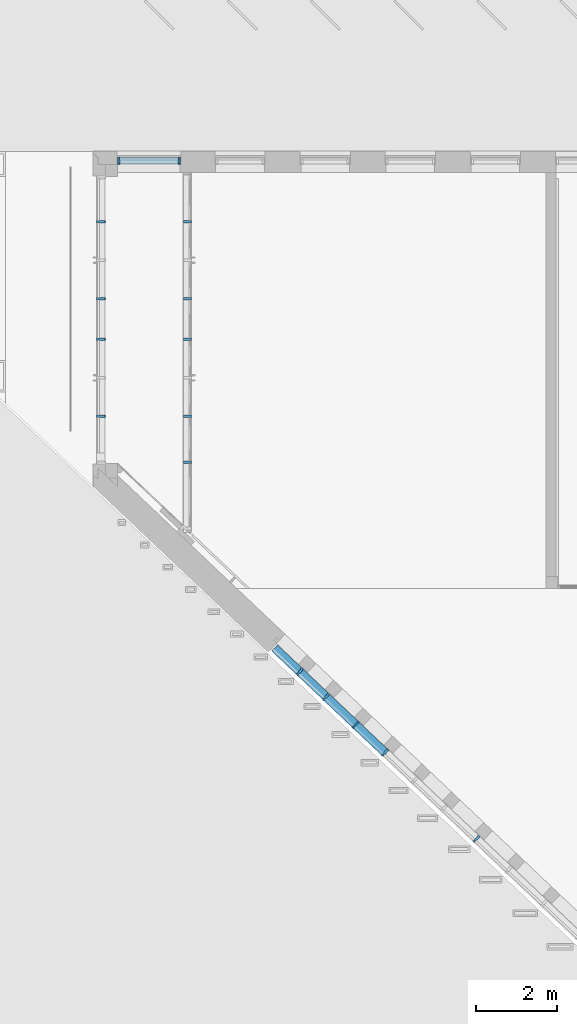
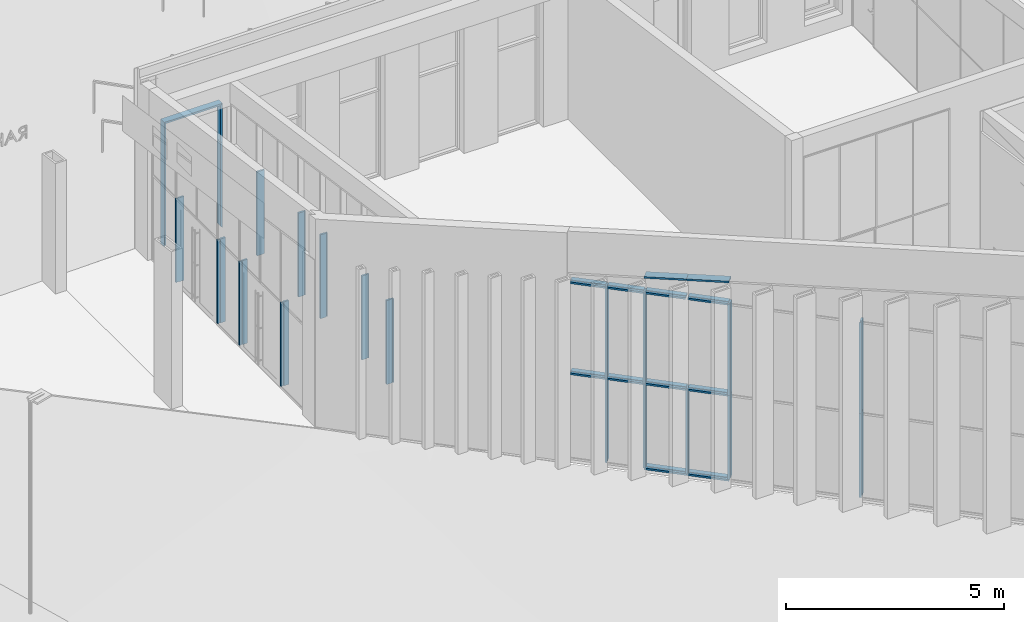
# One storey, part 12 of 246: 35 members, 4 elements without a shape of their own.
"""IFC2X3 building model written with IfcOpenShell, lengths in millimetres."""

from ifc_helpers import new_model, entity, si_unit, converted_unit, derived_unit, money_unit, direction, frame, origin_with_axes, place, context, subcontext, project, spatial, faceted_brep, source, transform, mapped, material, type_object, element, aggregate, save


model = new_model("IFC2X3")

# Units and contexts
model_context = context("Model", 3, precision=0.01, world=origin_with_axes(), true_north=direction((0.0, 1.0)))
body_context = subcontext(model_context, "Body", "Model", "MODEL_VIEW")
ifc_project = project(units=[si_unit("LENGTHUNIT", "METRE", prefix="MILLI"), si_unit("AREAUNIT", "SQUARE_METRE"), si_unit("VOLUMEUNIT", "CUBIC_METRE"), converted_unit("PLANEANGLEUNIT", "DEGREE", entity("IfcPlaneAngleMeasure", 0.0174532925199), si_unit("PLANEANGLEUNIT", "RADIAN"), dimensions=[0, 0, 0, 0, 0, 0, 0]), si_unit("SOLIDANGLEUNIT", "STERADIAN"), money_unit("EUR"), converted_unit("TIMEUNIT", "Year", entity("IfcTimeMeasure", 31556926.0), si_unit("TIMEUNIT", "SECOND"), dimensions=[0, 0, 1, 0, 0, 0, 0]), si_unit("MASSUNIT", "GRAM", prefix="KILO"), si_unit("THERMODYNAMICTEMPERATUREUNIT", "DEGREE_CELSIUS"), si_unit("LUMINOUSINTENSITYUNIT", "LUMEN"), si_unit("ENERGYUNIT", "JOULE", prefix="MEGA"), derived_unit("THERMALCONDUCTANCEUNIT", [(si_unit("POWERUNIT", "WATT"), 1), (si_unit("LENGTHUNIT", "METRE"), -1), (si_unit("THERMODYNAMICTEMPERATUREUNIT", "KELVIN"), -1)]), derived_unit("SPECIFICHEATCAPACITYUNIT", [(si_unit("ENERGYUNIT", "JOULE"), 1), (si_unit("MASSUNIT", "GRAM", prefix="KILO"), -1), (si_unit("THERMODYNAMICTEMPERATUREUNIT", "KELVIN"), -1)]), derived_unit("MASSDENSITYUNIT", [(si_unit("MASSUNIT", "GRAM", prefix="KILO"), 1), (si_unit("VOLUMEUNIT", "CUBIC_METRE"), -1)])], contexts=[model_context])

# Site, building, storey
site_placement = place(None, origin_with_axes())
site = spatial("IfcSite", under=ifc_project, at=site_placement, Name="L.Koidula tn 11b", CompositionType="ELEMENT")
building_placement = place(site_placement, origin_with_axes())
building = spatial("IfcBuilding", under=site, at=building_placement, Name="Rakvere Riigigümnaasium", CompositionType="ELEMENT")
storey_placement = place(building_placement, origin_with_axes())
storey = spatial("IfcBuildingStorey", under=building, at=storey_placement, Name="1.korrus 0,00", CompositionType="ELEMENT", Elevation=0.0)

# Curtain wall, member
curtain_wall_type = type_object("IfcCurtainWallType", Name="Curtain Wall Type", PredefinedType="NOTDEFINED")
curtain_wall_1_placement = place(storey_placement, frame((15499.784937, 71934.4519938, -4.35310838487e-05), z_axis=(0.0, 0.0, 1.0), x_axis=(1.0, 0.0, 0.0)))
curtain_wall_1 = element("IfcCurtainWall", 1, at=curtain_wall_1_placement, inside=storey, type_object=curtain_wall_type, Name="KLF-08-01")
ifc_material = material(Name="Alumiiniumprofiil (RAL 7021)")
member_type_1 = type_object("IfcMemberType", Name="Boundary Frame 50 x 170", PredefinedType="MULLION")
shared_shape_1 = source(origin_with_axes(), body_context, "Body", "Brep", [
    faceted_brep([(-37.0, -26.0, 2400.00000019), (-50.0, -26.0, 2400.00000019), (-50.0, -124.0, 2400.00000019), (0.0, -124.0, 2400.00000019), (0.0, 46.0, 2400.00000019), (-50.0, 46.0, 2400.00000019), (-50.0, 26.0, 2400.00000019), (-37.0, 26.0, 2400.00000019), (-37.0, -26.0, 37.0), (-50.0, -26.0, 50.0), (-50.0, -124.0, 50.0), (0.0, -124.0, 0.0), (0.0, 46.0, 0.0), (-50.0, 46.0, 50.0), (-50.0, 26.0, 50.0), (-37.0, 26.0, 37.0)], [[[0, 1, 2, 3, 4, 5, 6, 7]], [[0, 8, 9, 1]], [[9, 10, 2, 1]], [[2, 10, 11, 3]], [[3, 11, 12, 4]], [[4, 12, 13, 5]], [[6, 5, 13, 14]], [[14, 15, 7, 6]], [[7, 15, 8, 0]], [[8, 15, 14, 13, 12, 11, 10, 9]]]),
])
member_1_placement = place(curtain_wall_1_placement, frame((769.750532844, 0.0, 0.0), z_axis=(-5.67452741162e-10, 0.0, 1.0), x_axis=(-1.0, 0.0, -5.67452741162e-10)))
member_1 = element("IfcMember", 2, at=member_1_placement, type_object=member_type_1, material=ifc_material, Name="KLF-08-41-Profiilid", ObjectType="MULLION", context=body_context, shape_type="MappedRepresentation", body=[
    mapped(shared_shape_1, transform((0.0, 0.0, 0.0), x_axis=(-1.0, 0.0, -5.67452741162e-10), y_axis=(0.0, -1.0, 0.0), z_axis=(-5.67452741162e-10, 0.0, 1.0))),
])

# Curtain wall, members
curtain_wall_2_placement = place(storey_placement, frame((33997.0353268, 45217.6604975, 0.0), z_axis=(0.0, 0.0, 1.0), x_axis=(1.0, 0.0, 0.0)))
curtain_wall_2 = element("IfcCurtainWall", 3, at=curtain_wall_2_placement, inside=storey, type_object=curtain_wall_type, Name="KLF-02")
member_type_2 = type_object("IfcMemberType", Name="Mullion Frame 50 x 210", PredefinedType="MULLION")
shared_shape_2 = source(origin_with_axes(), body_context, "Body", "Brep", [
    faceted_brep([(12.0, -26.0, 2550.0), (12.0, 26.0, 2550.0), (25.0, 26.0, 2550.0), (25.0, 56.0, 2550.0), (-25.0, 56.0, 2550.0), (-25.0, 26.0, 2550.0), (-12.0, 26.0, 2550.0), (-12.0, -26.0, 2550.0), (-25.0, -26.0, 2550.0), (-25.0, -154.0, 2550.0), (25.0, -154.0, 2550.0), (25.0, -26.0, 2550.0), (12.0, -26.0, 0.0), (12.0, 26.0, 0.0), (25.0, 26.0, 0.0), (25.0, 56.0, 0.0), (-25.0, 56.0, 0.0), (-25.0, 26.0, 0.0), (-12.0, 26.0, 0.0), (-12.0, -26.0, 0.0), (-25.0, -26.0, 0.0), (-25.0, -154.0, 0.0), (25.0, -154.0, 0.0), (25.0, -26.0, 0.0)], [[[0, 1, 2, 3, 4, 5, 6, 7, 8, 9, 10, 11]], [[0, 12, 13, 1]], [[1, 13, 14, 2]], [[14, 15, 3, 2]], [[3, 15, 16, 4]], [[17, 5, 4, 16]], [[5, 17, 18, 6]], [[7, 6, 18, 19]], [[8, 7, 19, 20]], [[8, 20, 21, 9]], [[9, 21, 22, 10]], [[11, 10, 22, 23]], [[11, 23, 12, 0]], [[13, 12, 23, 22, 21, 20, 19, 18, 17, 16, 15, 14]]]),
])
member_2_placement = place(curtain_wall_2_placement, frame((-14809.5886752, 14029.8283407, 2400.00031279), z_axis=(0.0, 0.0, 1.0), x_axis=(0.725960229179, -0.687736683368, 0.0)))
member_2 = element("IfcMember", 4, at=member_2_placement, type_object=member_type_2, material=ifc_material, Name="KLF-52-Profiilid", ObjectType="MULLION", context=body_context, shape_type="MappedRepresentation", body=[
    mapped(shared_shape_2, transform((0.0, 0.0, 0.0), x_axis=(-1.0, 0.0, 0.0), y_axis=(0.0, -1.0, 0.0), z_axis=(0.0, 0.0, 1.0))),
])
member_3_placement = place(curtain_wall_2_placement, frame((-14156.224469, 13410.8653257, 2400.00031279), z_axis=(0.0, 0.0, 1.0), x_axis=(0.725960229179, -0.687736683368, 0.0)))
member_3 = element("IfcMember", 5, at=member_3_placement, type_object=member_type_2, material=ifc_material, Name="KLF-49-Profiilid", ObjectType="MULLION", context=body_context, shape_type="MappedRepresentation", body=[
    mapped(shared_shape_2, transform((0.0, 0.0, 0.0), x_axis=(-1.0, 0.0, 0.0), y_axis=(0.0, -1.0, 0.0), z_axis=(0.0, 0.0, 1.0))),
])
member_4_placement = place(curtain_wall_2_placement, frame((-12704.3040106, 12035.3919589, 2400.00031279), z_axis=(0.0, 0.0, 1.0), x_axis=(0.725960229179, -0.687736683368, 0.0)))
member_4 = element("IfcMember", 6, at=member_4_placement, type_object=member_type_2, material=ifc_material, Name="KLF-43-Profiilid", ObjectType="MULLION", context=body_context, shape_type="MappedRepresentation", body=[
    mapped(shared_shape_2, transform((0.0, 0.0, 0.0), x_axis=(-1.0, 0.0, 0.0), y_axis=(0.0, -1.0, 0.0), z_axis=(0.0, 0.0, 1.0))),
])
member_5_placement = place(curtain_wall_2_placement, frame((-10453.8273002, 9903.40824051, 2400.00031279), z_axis=(0.0, 0.0, 1.0), x_axis=(0.725960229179, -0.687736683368, 0.0)))
member_5 = element("IfcMember", 7, at=member_5_placement, type_object=member_type_2, material=ifc_material, Name="KLF-34-Profiilid", ObjectType="MULLION", context=body_context, shape_type="MappedRepresentation", body=[
    mapped(shared_shape_2, transform((0.0, 0.0, 0.0), x_axis=(-1.0, 0.0, 0.0), y_axis=(0.0, -1.0, 0.0), z_axis=(0.0, 0.0, 1.0))),
])
shared_shape_3 = source(origin_with_axes(), body_context, "Body", "Brep", [
    faceted_brep([(12.0, -26.0, 2400.00031279), (12.0, 26.0, 2400.00031279), (25.0, 26.0, 2400.00031279), (25.0, 56.0, 2400.00031279), (-25.0, 56.0, 2400.00031279), (-25.0, 26.0, 2400.00031279), (-12.0, 26.0, 2400.00031279), (-12.0, -26.0, 2400.00031279), (-25.0, -26.0, 2400.00031279), (-25.0, -154.0, 2400.00031279), (25.0, -154.0, 2400.00031279), (25.0, -26.0, 2400.00031279), (12.0, -26.0, 50.0), (12.0, 26.0, 50.0), (25.0, 26.0, 50.0), (25.0, 56.0, 50.0), (-25.0, 56.0, 50.0), (-25.0, 26.0, 50.0), (-12.0, 26.0, 50.0), (-12.0, -26.0, 50.0), (-25.0, -26.0, 50.0), (-25.0, -154.0, 50.0), (25.0, -154.0, 50.0), (25.0, -26.0, 50.0)], [[[0, 1, 2, 3, 4, 5, 6, 7, 8, 9, 10, 11]], [[0, 12, 13, 1]], [[1, 13, 14, 2]], [[14, 15, 3, 2]], [[4, 3, 15, 16]], [[17, 5, 4, 16]], [[5, 17, 18, 6]], [[7, 6, 18, 19]], [[8, 7, 19, 20]], [[8, 20, 21, 9]], [[10, 9, 21, 22]], [[11, 10, 22, 23]], [[11, 23, 12, 0]], [[13, 12, 23, 22, 21, 20, 19, 18, 17, 16, 15, 14]]]),
])
member_6_placement = place(curtain_wall_2_placement, frame((-12704.3040106, 12035.3919589, 0.0), z_axis=(0.0, 0.0, 1.0), x_axis=(0.725960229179, -0.687736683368, 0.0)))
member_6 = element("IfcMember", 8, at=member_6_placement, type_object=member_type_2, material=ifc_material, Name="KLF-42-Profiilid", ObjectType="MULLION", context=body_context, shape_type="MappedRepresentation", body=[
    mapped(shared_shape_3, transform((0.0, 0.0, 0.0), x_axis=(-1.0, 0.0, 0.0), y_axis=(0.0, -1.0, 0.0), z_axis=(0.0, 0.0, 1.0))),
])
member_7_placement = place(curtain_wall_2_placement, frame((-14809.5886752, 14029.8283407, 0.0), z_axis=(0.0, 0.0, 1.0), x_axis=(0.725960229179, -0.687736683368, 0.0)))
member_7 = element("IfcMember", 9, at=member_7_placement, type_object=member_type_2, material=ifc_material, Name="KLF-51-Profiilid", ObjectType="MULLION", context=body_context, shape_type="MappedRepresentation", body=[
    mapped(shared_shape_3, transform((0.0, 0.0, 0.0), x_axis=(-1.0, 0.0, 0.0), y_axis=(0.0, -1.0, 0.0), z_axis=(0.0, 0.0, 1.0))),
])
member_8_placement = place(curtain_wall_2_placement, frame((-14156.224469, 13410.8653257, 0.0), z_axis=(0.0, 0.0, 1.0), x_axis=(0.725960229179, -0.687736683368, 0.0)))
member_8 = element("IfcMember", 10, at=member_8_placement, type_object=member_type_2, material=ifc_material, Name="KLF-48-Profiilid", ObjectType="MULLION", context=body_context, shape_type="MappedRepresentation", body=[
    mapped(shared_shape_3, transform((0.0, 0.0, 0.0), x_axis=(-1.0, 0.0, 0.0), y_axis=(0.0, -1.0, 0.0), z_axis=(0.0, 0.0, 1.0))),
])
member_9_placement = place(curtain_wall_2_placement, frame((-13430.2642398, 12723.1286423, 0.0), z_axis=(0.0, 0.0, 1.0), x_axis=(0.725960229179, -0.687736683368, 0.0)))
member_9 = element("IfcMember", 11, at=member_9_placement, type_object=member_type_2, material=ifc_material, Name="KLF-45-Profiilid", ObjectType="MULLION", context=body_context, shape_type="MappedRepresentation", body=[
    mapped(shared_shape_3, transform((0.0, 0.0, 0.0), x_axis=(-1.0, 0.0, 0.0), y_axis=(0.0, -1.0, 0.0), z_axis=(0.0, 0.0, 1.0))),
])
member_10_placement = place(curtain_wall_2_placement, frame((-10453.8273002, 9903.40824051, 0.0), z_axis=(0.0, 0.0, 1.0), x_axis=(0.725960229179, -0.687736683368, 0.0)))
member_10 = element("IfcMember", 12, at=member_10_placement, type_object=member_type_2, material=ifc_material, Name="KLF-33-Profiilid", ObjectType="MULLION", context=body_context, shape_type="MappedRepresentation", body=[
    mapped(shared_shape_3, transform((0.0, 0.0, 0.0), x_axis=(-1.0, 0.0, 0.0), y_axis=(0.0, -1.0, 0.0), z_axis=(0.0, 0.0, 1.0))),
])

# Member
shared_shape_4 = source(origin_with_axes(), body_context, "Body", "Brep", [
    faceted_brep([(37.0, -26.0, 2400.0), (37.0, 26.0, 2400.0), (50.0, 26.0, 2400.0), (50.0, 46.0, 2400.0), (0.0, 46.0, 2400.0), (0.0, -124.0, 2400.0), (50.0, -124.0, 2400.0), (50.0, -26.0, 2400.0), (37.0, -26.0, 37.0), (37.0, 26.0, 37.0), (50.0, 26.0, 50.0), (50.0, 46.0, 50.0), (0.0, 46.0, 0.0), (0.0, -124.0, 0.0), (50.0, -124.0, 50.0), (50.0, -26.0, 50.0)], [[[0, 1, 2, 3, 4, 5, 6, 7]], [[1, 0, 8, 9]], [[10, 2, 1, 9]], [[2, 10, 11, 3]], [[4, 3, 11, 12]], [[5, 4, 12, 13]], [[6, 5, 13, 14]], [[15, 7, 6, 14]], [[0, 7, 15, 8]], [[8, 15, 14, 13, 12, 11, 10, 9]]]),
])
member_11_placement = place(curtain_wall_1_placement, frame((-769.750531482, 0.0, 0.0), z_axis=(0.0, 0.0, 1.0), x_axis=(-1.0, 0.0, 0.0)))
member_11 = element("IfcMember", 13, at=member_11_placement, type_object=member_type_1, material=ifc_material, Name="KLF-08-45-Profiilid", ObjectType="MULLION", context=body_context, shape_type="MappedRepresentation", body=[
    mapped(shared_shape_4, transform((0.0, 0.0, 0.0), x_axis=(-1.0, 0.0, 0.0), y_axis=(0.0, -1.0, 0.0), z_axis=(0.0, 0.0, 1.0))),
])

shared_shape_5 = source(origin_with_axes(), body_context, "Body", "Brep", [
    faceted_brep([(-37.0, -26.0, 1042.99989822), (-50.0, -26.0, 1029.99989822), (-50.0, -124.0, 1029.99989822), (0.0, -124.0, 1079.99989822), (0.0, 46.0, 1079.99989822), (-50.0, 46.0, 1029.99989822), (-50.0, 26.0, 1029.99989822), (-37.0, 26.0, 1042.99989822), (-37.0, -26.0, -2.46072051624e-08), (-50.0, -26.0, -2.46072051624e-08), (-50.0, -124.0, -2.46072051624e-08), (0.0, -124.0, -2.46072051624e-08), (0.0, 46.0, -2.46072051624e-08), (-50.0, 46.0, -2.46072051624e-08), (-50.0, 26.0, -2.46072051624e-08), (-37.0, 26.0, -2.46072051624e-08)], [[[0, 1, 2, 3, 4, 5, 6, 7]], [[0, 8, 9, 1]], [[9, 10, 2, 1]], [[10, 11, 3, 2]], [[11, 12, 4, 3]], [[12, 13, 5, 4]], [[6, 5, 13, 14]], [[14, 15, 7, 6]], [[7, 15, 8, 0]], [[8, 15, 14, 13, 12, 11, 10, 9]]]),
])
member_12_placement = place(curtain_wall_1_placement, frame((769.750531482, 0.0, 2400.00004353), z_axis=(0.0, 0.0, 1.0), x_axis=(-1.0, 0.0, 0.0)))
member_12 = element("IfcMember", 14, at=member_12_placement, type_object=member_type_1, material=ifc_material, Name="KLF-08-42-Profiilid", ObjectType="MULLION", context=body_context, shape_type="MappedRepresentation", body=[
    mapped(shared_shape_5, transform((0.0, 0.0, 0.0), x_axis=(-1.0, 0.0, 0.0), y_axis=(0.0, -1.0, 0.0), z_axis=(0.0, 0.0, 1.0))),
])

# Curtain wall, members
curtain_wall_3_placement = place(storey_placement, frame((14260.0344055, 70945.4519938, -0.000165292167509), z_axis=(0.0, 0.0, 1.0), x_axis=(1.0, 0.0, 0.0)))
curtain_wall_3 = element("IfcCurtainWall", 15, at=curtain_wall_3_placement, inside=storey, type_object=curtain_wall_type, Name="KLF-01A")
member_type_3 = type_object("IfcMemberType", Name="Mullion Frame 50 x 208", PredefinedType="MULLION")
shared_shape_6 = source(origin_with_axes(), body_context, "Body", "Brep", [
    faceted_brep([(-12.0, -27.0, 2400.00026018), (-25.0, -27.0, 2400.00026018), (-25.0, -160.0, 2400.00026018), (25.0, -160.0, 2400.00026018), (25.0, -27.0, 2400.00026018), (12.0, -27.0, 2400.00026018), (12.0, 27.0, 2400.00026018), (25.0, 27.0, 2400.00026018), (25.0, 48.0, 2400.00026018), (-25.0, 48.0, 2400.00026018), (-25.0, 27.0, 2400.00026018), (-12.0, 27.0, 2400.00026018), (-12.0, -27.0, 50.0), (-25.0, -27.0, 50.0), (-25.0, -160.0, 50.0), (25.0, -160.0, 50.0), (25.0, -27.0, 50.0), (12.0, -27.0, 50.0), (12.0, 27.0, 50.0), (25.0, 27.0, 50.0), (25.0, 48.0, 50.0), (-25.0, 48.0, 50.0), (-25.0, 27.0, 50.0), (-12.0, 27.0, 50.0)], [[[0, 1, 2, 3, 4, 5, 6, 7, 8, 9, 10, 11]], [[1, 0, 12, 13]], [[1, 13, 14, 2]], [[2, 14, 15, 3]], [[4, 3, 15, 16]], [[4, 16, 17, 5]], [[5, 17, 18, 6]], [[7, 6, 18, 19]], [[19, 20, 8, 7]], [[8, 20, 21, 9]], [[22, 10, 9, 21]], [[11, 10, 22, 23]], [[0, 11, 23, 12]], [[23, 22, 21, 20, 19, 18, 17, 16, 15, 14, 13, 12]]]),
])
member_13_placement = place(curtain_wall_3_placement, frame((0.0, -555.0, 0.0), z_axis=(0.0, 0.0, 1.0), x_axis=(0.0, 1.0, 0.0)))
member_13 = element("IfcMember", 16, at=member_13_placement, type_object=member_type_3, material=ifc_material, Name="KLF-01 Profiilid", ObjectType="MULLION", context=body_context, shape_type="MappedRepresentation", body=[
    mapped(shared_shape_6, transform((0.0, 0.0, 0.0))),
])
member_14_placement = place(curtain_wall_3_placement, frame((0.0, -2455.0, 0.0), z_axis=(0.0, 0.0, 1.0), x_axis=(0.0, 1.0, 0.0)))
member_14 = element("IfcMember", 17, at=member_14_placement, type_object=member_type_3, material=ifc_material, Name="KLF-01 Profiilid", ObjectType="MULLION", context=body_context, shape_type="MappedRepresentation", body=[
    mapped(shared_shape_6, transform((0.0, 0.0, 0.0))),
])
member_15_placement = place(curtain_wall_3_placement, frame((0.0, -3460.0, 0.0), z_axis=(0.0, 0.0, 1.0), x_axis=(0.0, 1.0, 0.0)))
member_15 = element("IfcMember", 18, at=member_15_placement, type_object=member_type_3, material=ifc_material, Name="KLF-01 Profiilid", ObjectType="MULLION", context=body_context, shape_type="MappedRepresentation", body=[
    mapped(shared_shape_6, transform((0.0, 0.0, 0.0))),
])
member_16_placement = place(curtain_wall_3_placement, frame((0.0, -5360.0, 0.0), z_axis=(0.0, 0.0, 1.0), x_axis=(0.0, 1.0, 0.0)))
member_16 = element("IfcMember", 19, at=member_16_placement, type_object=member_type_3, material=ifc_material, Name="KLF-01 Profiilid", ObjectType="MULLION", context=body_context, shape_type="MappedRepresentation", body=[
    mapped(shared_shape_6, transform((0.0, 0.0, 0.0))),
])
aggregate(curtain_wall_3, [member_13, member_14, member_15, member_16])

# Member
member_type_4 = type_object("IfcMemberType", Name="Transom Frame 50 x 210", PredefinedType="MULLION")
shared_shape_7 = source(origin_with_axes(), body_context, "Body", "Brep", [
    faceted_brep([(12.0, -26.0, 975.0), (12.0, 26.0, 975.0), (25.0, 26.0, 975.0), (25.0, 56.0, 975.0), (-25.0, 56.0, 975.0), (-25.0, 26.0, 975.0), (-12.0, 26.0, 975.0), (-12.0, -26.0, 975.0), (-25.0, -26.0, 975.0), (-25.0, -154.0, 975.0), (25.0, -154.0, 975.0), (25.0, -26.0, 975.0), (12.0, -26.0, 25.0), (12.0, 26.0, 25.0), (25.0, 26.0, 25.0), (25.0, 56.0, 25.0), (-25.0, 56.0, 25.0), (-25.0, 26.0, 25.0), (-12.0, 26.0, 25.0), (-12.0, -26.0, 25.0), (-25.0, -26.0, 25.0), (-25.0, -154.0, 25.0), (25.0, -154.0, 25.0), (25.0, -26.0, 25.0)], [[[0, 1, 2, 3, 4, 5, 6, 7, 8, 9, 10, 11]], [[0, 12, 13, 1]], [[1, 13, 14, 2]], [[14, 15, 3, 2]], [[4, 3, 15, 16]], [[17, 5, 4, 16]], [[5, 17, 18, 6]], [[7, 6, 18, 19]], [[8, 7, 19, 20]], [[8, 20, 21, 9]], [[10, 9, 21, 22]], [[11, 10, 22, 23]], [[11, 23, 12, 0]], [[13, 12, 23, 22, 21, 20, 19, 18, 17, 16, 15, 14]]]),
])
member_17_placement = place(curtain_wall_2_placement, frame((-13430.2642398, 12723.1286423, 4950.00031279), z_axis=(-0.725960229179, 0.687736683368, 0.0), x_axis=(0.0, 0.0, 1.0)))
member_17 = element("IfcMember", 20, at=member_17_placement, type_object=member_type_4, material=ifc_material, Name="KLF-53-Profiilid", ObjectType="MULLION", context=body_context, shape_type="MappedRepresentation", body=[
    mapped(shared_shape_7, transform((0.0, 0.0, 0.0), x_axis=(-1.0, 0.0, 0.0), y_axis=(0.0, -1.0, 0.0), z_axis=(0.0, 0.0, 1.0))),
])

member_18_placement = place(curtain_wall_2_placement, frame((-12704.3040106, 12035.3919589, 4950.00031279), z_axis=(-0.725960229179, 0.687736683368, 0.0), x_axis=(0.0, 0.0, 1.0)))
member_18 = element("IfcMember", 21, at=member_18_placement, type_object=member_type_4, material=ifc_material, Name="KLF-52-Profiilid", ObjectType="MULLION", context=body_context, shape_type="MappedRepresentation", body=[
    mapped(shared_shape_7, transform((0.0, 0.0, 0.0), x_axis=(-1.0, 0.0, 0.0), y_axis=(0.0, -1.0, 0.0), z_axis=(0.0, 0.0, 1.0))),
])

member_19_placement = place(curtain_wall_2_placement, frame((-13430.2642398, 12723.1286423, 2400.00031279), z_axis=(-0.725960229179, 0.687736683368, 0.0), x_axis=(0.0, 0.0, 1.0)))
member_19 = element("IfcMember", 22, at=member_19_placement, type_object=member_type_4, material=ifc_material, Name="KLF-35-Profiilid", ObjectType="MULLION", context=body_context, shape_type="MappedRepresentation", body=[
    mapped(shared_shape_7, transform((0.0, 0.0, 0.0), x_axis=(-1.0, 0.0, 0.0), y_axis=(0.0, -1.0, 0.0), z_axis=(0.0, 0.0, 1.0))),
])

member_20_placement = place(curtain_wall_2_placement, frame((-12704.3040106, 12035.3919589, 2400.00031279), z_axis=(-0.725960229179, 0.687736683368, 0.0), x_axis=(0.0, 0.0, 1.0)))
member_20 = element("IfcMember", 23, at=member_20_placement, type_object=member_type_4, material=ifc_material, Name="KLF-34-Profiilid", ObjectType="MULLION", context=body_context, shape_type="MappedRepresentation", body=[
    mapped(shared_shape_7, transform((0.0, 0.0, 0.0), x_axis=(-1.0, 0.0, 0.0), y_axis=(0.0, -1.0, 0.0), z_axis=(0.0, 0.0, 1.0))),
])

shared_shape_8 = source(origin_with_axes(), body_context, "Body", "Brep", [
    faceted_brep([(37.0, -26.0, 1043.00003141), (37.0, 26.0, 1043.00003141), (50.0, 26.0, 1030.00003141), (50.0, 46.0, 1030.00003141), (0.0, 46.0, 1080.00003141), (0.0, -124.0, 1080.00003141), (50.0, -124.0, 1030.00003141), (50.0, -26.0, 1030.00003141), (37.0, -26.0, 0.0), (37.0, 26.0, 0.0), (50.0, 26.0, 0.0), (50.0, 46.0, 0.0), (0.0, 46.0, 0.0), (0.0, -124.0, 0.0), (50.0, -124.0, 0.0), (50.0, -26.0, 0.0)], [[[0, 1, 2, 3, 4, 5, 6, 7]], [[1, 0, 8, 9]], [[10, 2, 1, 9]], [[2, 10, 11, 3]], [[12, 4, 3, 11]], [[13, 5, 4, 12]], [[14, 6, 5, 13]], [[15, 7, 6, 14]], [[0, 7, 15, 8]], [[8, 15, 14, 13, 12, 11, 10, 9]]]),
])
member_21_placement = place(curtain_wall_1_placement, frame((-769.750531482, 0.0, 2400.00004353), z_axis=(0.0, 0.0, 1.0), x_axis=(-1.0, 0.0, 0.0)))
member_21 = element("IfcMember", 24, at=member_21_placement, type_object=member_type_1, material=ifc_material, Name="KLF-08-44-Profiilid", ObjectType="MULLION", context=body_context, shape_type="MappedRepresentation", body=[
    mapped(shared_shape_8, transform((0.0, 0.0, 0.0), x_axis=(-1.0, 0.0, 0.0), y_axis=(0.0, -1.0, 0.0), z_axis=(0.0, 0.0, 1.0))),
])

# Curtain wall, members
curtain_wall_4_placement = place(storey_placement, frame((16510.0495753, 70995.4517615, -0.000456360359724), z_axis=(0.0, 0.0, 1.0), x_axis=(1.0, 0.0, 0.0)))
curtain_wall_4 = element("IfcCurtainWall", 25, at=curtain_wall_4_placement, inside=storey, type_object=curtain_wall_type, Name="KLF-01B")
member_type_5 = type_object("IfcMemberType", Name="Mullion Frame 50 x 188", PredefinedType="MULLION")
shared_shape_9 = source(origin_with_axes(), body_context, "Body", "Brep", [
    faceted_brep([(12.0, -15.0, 2400.00029107), (12.0, 15.0, 2400.00029107), (25.0, 15.0, 2400.00029107), (25.0, 35.0, 2400.00029107), (-25.0, 35.0, 2400.00029107), (-25.0, 15.0, 2400.00029107), (-12.0, 15.0, 2400.00029107), (-12.0, -15.0, 2400.00029107), (-25.0, -15.0, 2400.00029107), (-25.0, -153.0, 2400.00029107), (25.0, -153.0, 2400.00029107), (25.0, -15.0, 2400.00029107), (12.0, -15.0, 50.0), (12.0, 15.0, 50.0), (25.0, 15.0, 50.0), (25.0, 35.0, 50.0), (-25.0, 35.0, 50.0), (-25.0, 15.0, 50.0), (-12.0, 15.0, 50.0), (-12.0, -15.0, 50.0), (-25.0, -15.0, 50.0), (-25.0, -153.0, 50.0), (25.0, -153.0, 50.0), (25.0, -15.0, 50.0)], [[[0, 1, 2, 3, 4, 5, 6, 7, 8, 9, 10, 11]], [[0, 12, 13, 1]], [[1, 13, 14, 2]], [[14, 15, 3, 2]], [[4, 3, 15, 16]], [[17, 5, 4, 16]], [[5, 17, 18, 6]], [[7, 6, 18, 19]], [[8, 7, 19, 20]], [[8, 20, 21, 9]], [[10, 9, 21, 22]], [[11, 10, 22, 23]], [[11, 23, 12, 0]], [[13, 12, 23, 22, 21, 20, 19, 18, 17, 16, 15, 14]]]),
])
member_22_placement = place(curtain_wall_4_placement, frame((0.0, -604.999767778, 0.0), z_axis=(0.0, 0.0, 1.0), x_axis=(0.0, 1.0, 0.0)))
member_22 = element("IfcMember", 26, at=member_22_placement, type_object=member_type_5, material=ifc_material, Name="KLF-01 Profiilid", ObjectType="MULLION", context=body_context, shape_type="MappedRepresentation", body=[
    mapped(shared_shape_9, transform((0.0, 0.0, 0.0), x_axis=(-1.0, 0.0, 0.0), y_axis=(0.0, -1.0, 0.0), z_axis=(0.0, 0.0, 1.0))),
])
member_23_placement = place(curtain_wall_4_placement, frame((0.0, -2504.99976778, 0.0), z_axis=(0.0, 0.0, 1.0), x_axis=(0.0, 1.0, 0.0)))
member_23 = element("IfcMember", 27, at=member_23_placement, type_object=member_type_5, material=ifc_material, Name="KLF-01 Profiilid", ObjectType="MULLION", context=body_context, shape_type="MappedRepresentation", body=[
    mapped(shared_shape_9, transform((0.0, 0.0, 0.0), x_axis=(-1.0, 0.0, 0.0), y_axis=(0.0, -1.0, 0.0), z_axis=(0.0, 0.0, 1.0))),
])
member_24_placement = place(curtain_wall_4_placement, frame((0.0, -3509.99976778, 0.0), z_axis=(0.0, 0.0, 1.0), x_axis=(0.0, 1.0, 0.0)))
member_24 = element("IfcMember", 28, at=member_24_placement, type_object=member_type_5, material=ifc_material, Name="KLF-01 Profiilid", ObjectType="MULLION", context=body_context, shape_type="MappedRepresentation", body=[
    mapped(shared_shape_9, transform((0.0, 0.0, 0.0), x_axis=(-1.0, 0.0, 0.0), y_axis=(0.0, -1.0, 0.0), z_axis=(0.0, 0.0, 1.0))),
])
member_25_placement = place(curtain_wall_4_placement, frame((0.0, -5409.99976778, 0.0), z_axis=(0.0, 0.0, 1.0), x_axis=(0.0, 1.0, 0.0)))
member_25 = element("IfcMember", 29, at=member_25_placement, type_object=member_type_5, material=ifc_material, Name="KLF-01 Profiilid", ObjectType="MULLION", context=body_context, shape_type="MappedRepresentation", body=[
    mapped(shared_shape_9, transform((0.0, 0.0, 0.0), x_axis=(-1.0, 0.0, 0.0), y_axis=(0.0, -1.0, 0.0), z_axis=(0.0, 0.0, 1.0))),
])
member_26_placement = place(curtain_wall_4_placement, frame((0.0, -6544.99976778, 0.0), z_axis=(0.0, 0.0, 1.0), x_axis=(0.0, 1.0, 0.0)))
member_26 = element("IfcMember", 30, at=member_26_placement, type_object=member_type_5, material=ifc_material, Name="KLF-97 Profiilid", ObjectType="MULLION", context=body_context, shape_type="MappedRepresentation", body=[
    mapped(shared_shape_9, transform((0.0, 0.0, 0.0), x_axis=(-1.0, 0.0, 0.0), y_axis=(0.0, -1.0, 0.0), z_axis=(0.0, 0.0, 1.0))),
])
aggregate(curtain_wall_4, [member_22, member_23, member_24, member_25, member_26])

# Member
member_type_6 = type_object("IfcMemberType", Name="Boundary Frame 50 x 210", PredefinedType="MULLION")
shared_shape_10 = source(origin_with_axes(), body_context, "Body", "Brep", [
    faceted_brep([(-37.0, -26.0, 1000.0), (-50.0, -26.0, 1000.0), (-50.0, -154.0, 1000.0), (0.0, -154.0, 1000.0), (0.0, 56.0, 1000.0), (-50.0, 56.0, 1000.0), (-50.0, 26.0, 1000.0), (-37.0, 26.0, 1000.0), (-37.0, -26.0, 0.0), (-50.0, -26.0, 0.0), (-50.0, -154.0, 0.0), (0.0, -154.0, 0.0), (0.0, 56.0, 0.0), (-50.0, 56.0, 0.0), (-50.0, 26.0, 0.0), (-37.0, 26.0, 0.0)], [[[0, 1, 2, 3, 4, 5, 6, 7]], [[0, 8, 9, 1]], [[9, 10, 2, 1]], [[10, 11, 3, 2]], [[11, 12, 4, 3]], [[12, 13, 5, 4]], [[6, 5, 13, 14]], [[14, 15, 7, 6]], [[7, 15, 8, 0]], [[8, 15, 14, 13, 12, 11, 10, 9]]]),
])
member_27_placement = place(curtain_wall_2_placement, frame((-13430.2642398, 12723.1286423, 0.0), z_axis=(-0.725960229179, 0.687736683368, 0.0), x_axis=(0.0, 0.0, 1.0)))
member_27 = element("IfcMember", 31, at=member_27_placement, type_object=member_type_6, material=ifc_material, Name="KLF-04-Profiilid", ObjectType="MULLION", context=body_context, shape_type="MappedRepresentation", body=[
    mapped(shared_shape_10, transform((0.0, 0.0, 0.0), x_axis=(-1.0, 0.0, 0.0), y_axis=(0.0, -1.0, 0.0), z_axis=(0.0, 0.0, 1.0))),
])

member_28_placement = place(curtain_wall_2_placement, frame((-12704.3040106, 12035.3919589, 0.0), z_axis=(-0.725960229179, 0.687736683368, 0.0), x_axis=(0.0, 0.0, 1.0)))
member_28 = element("IfcMember", 32, at=member_28_placement, type_object=member_type_6, material=ifc_material, Name="KLF-03-Profiilid", ObjectType="MULLION", context=body_context, shape_type="MappedRepresentation", body=[
    mapped(shared_shape_10, transform((0.0, 0.0, 0.0), x_axis=(-1.0, 0.0, 0.0), y_axis=(0.0, -1.0, 0.0), z_axis=(0.0, 0.0, 1.0))),
])

shared_shape_11 = source(origin_with_axes(), body_context, "Body", "Brep", [
    faceted_brep([(-37.0, -26.0, 1004.84901886), (-50.0, -26.0, 1004.84901886), (-50.0, -154.0, 1004.84901886), (0.0, -154.0, 1004.84901886), (0.0, 56.0, 1004.84901886), (-50.0, 56.0, 1004.84901886), (-50.0, 26.0, 1004.84901886), (-37.0, 26.0, 1004.84901886), (-37.0, -26.0, 0.0), (-50.0, -26.0, 0.0), (-50.0, -154.0, 0.0), (0.0, -154.0, 0.0), (0.0, 56.0, 0.0), (-50.0, 56.0, 0.0), (-50.0, 26.0, 0.0), (-37.0, 26.0, 0.0)], [[[0, 1, 2, 3, 4, 5, 6, 7]], [[0, 8, 9, 1]], [[9, 10, 2, 1]], [[10, 11, 3, 2]], [[11, 12, 4, 3]], [[12, 13, 5, 4]], [[6, 5, 13, 14]], [[14, 15, 7, 6]], [[7, 15, 8, 0]], [[8, 15, 14, 13, 12, 11, 10, 9]]]),
])
member_29_placement = place(curtain_wall_2_placement, frame((-13430.2642398, 12723.1286423, 5506.70418256), z_axis=(0.722457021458, -0.68441792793, 0.0981221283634), x_axis=(0.0712327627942, -0.0674821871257, -0.995174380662)))
member_29 = element("IfcMember", 33, at=member_29_placement, type_object=member_type_6, material=ifc_material, Name="KLF-13-Profiilid", ObjectType="MULLION", context=body_context, shape_type="MappedRepresentation", body=[
    mapped(shared_shape_11, transform((0.0, 0.0, 0.0), x_axis=(-1.0, 0.0, 0.0), y_axis=(0.0, -1.0, 0.0), z_axis=(0.0, 0.0, 1.0))),
])

member_30_placement = place(curtain_wall_2_placement, frame((-14156.224469, 13410.8653257, 5408.10625815), z_axis=(0.722457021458, -0.68441792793, 0.0981221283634), x_axis=(0.0712327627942, -0.0674821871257, -0.995174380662)))
member_30 = element("IfcMember", 34, at=member_30_placement, type_object=member_type_6, material=ifc_material, Name="KLF-12-Profiilid", ObjectType="MULLION", context=body_context, shape_type="MappedRepresentation", body=[
    mapped(shared_shape_11, transform((0.0, 0.0, 0.0), x_axis=(-1.0, 0.0, 0.0), y_axis=(0.0, -1.0, 0.0), z_axis=(0.0, 0.0, 1.0))),
])

shared_shape_12 = source(origin_with_axes(), body_context, "Body", "Brep", [
    faceted_brep([(12.0, -26.0, 875.0), (12.0, 26.0, 875.0), (25.0, 26.0, 875.0), (25.0, 56.0, 875.0), (-25.0, 56.0, 875.0), (-25.0, 26.0, 875.0), (-12.0, 26.0, 875.0), (-12.0, -26.0, 875.0), (-25.0, -26.0, 875.0), (-25.0, -154.0, 875.0), (25.0, -154.0, 875.0), (25.0, -26.0, 875.0), (12.0, -26.0, 25.0), (12.0, 26.0, 25.0), (25.0, 26.0, 25.0), (25.0, 56.0, 25.0), (-25.0, 56.0, 25.0), (-25.0, 26.0, 25.0), (-12.0, 26.0, 25.0), (-12.0, -26.0, 25.0), (-25.0, -26.0, 25.0), (-25.0, -154.0, 25.0), (25.0, -154.0, 25.0), (25.0, -26.0, 25.0)], [[[0, 1, 2, 3, 4, 5, 6, 7, 8, 9, 10, 11]], [[0, 12, 13, 1]], [[1, 13, 14, 2]], [[14, 15, 3, 2]], [[4, 3, 15, 16]], [[17, 5, 4, 16]], [[5, 17, 18, 6]], [[7, 6, 18, 19]], [[8, 7, 19, 20]], [[8, 20, 21, 9]], [[10, 9, 21, 22]], [[11, 10, 22, 23]], [[11, 23, 12, 0]], [[13, 12, 23, 22, 21, 20, 19, 18, 17, 16, 15, 14]]]),
])
member_31_placement = place(curtain_wall_2_placement, frame((-14156.224469, 13410.8653257, 4950.00031279), z_axis=(-0.725960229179, 0.687736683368, 0.0), x_axis=(0.0, 0.0, 1.0)))
member_31 = element("IfcMember", 35, at=member_31_placement, type_object=member_type_4, material=ifc_material, Name="KLF-54-Profiilid", ObjectType="MULLION", context=body_context, shape_type="MappedRepresentation", body=[
    mapped(shared_shape_12, transform((0.0, 0.0, 0.0), x_axis=(-1.0, 0.0, 0.0), y_axis=(0.0, -1.0, 0.0), z_axis=(0.0, 0.0, 1.0))),
])

member_32_placement = place(curtain_wall_2_placement, frame((-14156.224469, 13410.8653257, 2400.00031279), z_axis=(-0.725960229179, 0.687736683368, 0.0), x_axis=(0.0, 0.0, 1.0)))
member_32 = element("IfcMember", 36, at=member_32_placement, type_object=member_type_4, material=ifc_material, Name="KLF-36-Profiilid", ObjectType="MULLION", context=body_context, shape_type="MappedRepresentation", body=[
    mapped(shared_shape_12, transform((0.0, 0.0, 0.0), x_axis=(-1.0, 0.0, 0.0), y_axis=(0.0, -1.0, 0.0), z_axis=(0.0, 0.0, 1.0))),
])

shared_shape_13 = source(origin_with_axes(), body_context, "Body", "Brep", [
    faceted_brep([(12.0, -26.0, 850.076787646), (12.0, 26.0, 850.076787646), (25.0, 26.0, 850.076787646), (25.0, 56.0, 850.076787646), (-25.0, 56.0, 850.076787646), (-25.0, 26.0, 850.076787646), (-12.0, 26.0, 850.076787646), (-12.0, -26.0, 850.076787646), (-25.0, -26.0, 850.076787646), (-25.0, -154.0, 850.076787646), (25.0, -154.0, 850.076787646), (25.0, -26.0, 850.076787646), (12.0, -26.0, 25.0), (12.0, 26.0, 25.0), (25.0, 26.0, 25.0), (25.0, 56.0, 25.0), (-25.0, 56.0, 25.0), (-25.0, 26.0, 25.0), (-12.0, 26.0, 25.0), (-12.0, -26.0, 25.0), (-25.0, -26.0, 25.0), (-25.0, -154.0, 25.0), (25.0, -154.0, 25.0), (25.0, -26.0, 25.0)], [[[0, 1, 2, 3, 4, 5, 6, 7, 8, 9, 10, 11]], [[0, 12, 13, 1]], [[1, 13, 14, 2]], [[14, 15, 3, 2]], [[4, 3, 15, 16]], [[17, 5, 4, 16]], [[5, 17, 18, 6]], [[7, 6, 18, 19]], [[8, 7, 19, 20]], [[8, 20, 21, 9]], [[10, 9, 21, 22]], [[11, 10, 22, 23]], [[11, 23, 12, 0]], [[13, 12, 23, 22, 21, 20, 19, 18, 17, 16, 15, 14]]]),
])
member_33_placement = place(curtain_wall_2_placement, frame((-14809.5886752, 14029.8283407, 4950.00031279), z_axis=(-0.725960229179, 0.687736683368, 0.0), x_axis=(0.0, 0.0, 1.0)))
member_33 = element("IfcMember", 37, at=member_33_placement, type_object=member_type_4, material=ifc_material, Name="KLF-23-Profiilid", ObjectType="MULLION", context=body_context, shape_type="MappedRepresentation", body=[
    mapped(shared_shape_13, transform((0.0, 0.0, 0.0), x_axis=(-1.0, 0.0, 0.0), y_axis=(0.0, -1.0, 0.0), z_axis=(0.0, 0.0, 1.0))),
])

member_34_placement = place(curtain_wall_2_placement, frame((-14809.5886752, 14029.8283407, 2400.00031279), z_axis=(-0.725960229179, 0.687736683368, 0.0), x_axis=(0.0, 0.0, 1.0)))
member_34 = element("IfcMember", 38, at=member_34_placement, type_object=member_type_4, material=ifc_material, Name="KLF-24-Profiilid", ObjectType="MULLION", context=body_context, shape_type="MappedRepresentation", body=[
    mapped(shared_shape_13, transform((0.0, 0.0, 0.0), x_axis=(-1.0, 0.0, 0.0), y_axis=(0.0, -1.0, 0.0), z_axis=(0.0, 0.0, 1.0))),
])

aggregate(curtain_wall_2, [member_6, member_2, member_7, member_3, member_8, member_9, member_4, member_10, member_5, member_31, member_17, member_18, member_32, member_19, member_20, member_27, member_28, member_33, member_34, member_29, member_30])

shared_shape_14 = source(origin_with_axes(), body_context, "Body", "Brep", [
    faceted_brep([(-37.0, -26.0, 1502.50106296), (-50.0, -26.0, 1489.50106296), (-50.0, -124.0, 1489.50106296), (0.0, -124.0, 1539.50106296), (0.0, 46.0, 1539.50106296), (-50.0, 46.0, 1489.50106296), (-50.0, 26.0, 1489.50106296), (-37.0, 26.0, 1502.50106296), (-37.0, -26.0, 37.0), (-50.0, -26.0, 50.0), (-50.0, -124.0, 50.0), (0.0, -124.0, 0.0), (0.0, 46.0, 0.0), (-50.0, 46.0, 50.0), (-50.0, 26.0, 50.0), (-37.0, 26.0, 37.0)], [[[0, 1, 2, 3, 4, 5, 6, 7]], [[0, 8, 9, 1]], [[9, 10, 2, 1]], [[2, 10, 11, 3]], [[3, 11, 12, 4]], [[4, 12, 13, 5]], [[6, 5, 13, 14]], [[14, 15, 7, 6]], [[7, 15, 8, 0]], [[8, 15, 14, 13, 12, 11, 10, 9]]]),
])
member_35_placement = place(curtain_wall_1_placement, frame((769.750531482, 0.0, 3480.00007494), z_axis=(-1.0, 0.0, 0.0), x_axis=(0.0, 0.0, -1.0)))
member_35 = element("IfcMember", 39, at=member_35_placement, type_object=member_type_1, material=ifc_material, Name="KLF-08-43-Profiilid", ObjectType="MULLION", context=body_context, shape_type="MappedRepresentation", body=[
    mapped(shared_shape_14, transform((0.0, 0.0, 0.0), x_axis=(-1.0, 0.0, 0.0), y_axis=(0.0, -1.0, 0.0), z_axis=(0.0, 0.0, 1.0))),
])

aggregate(curtain_wall_1, [member_11, member_21, member_35, member_12, member_1])

save(model, "model.ifc")
